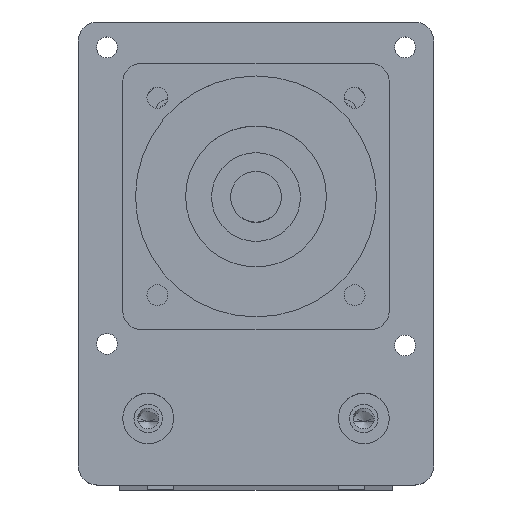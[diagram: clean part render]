
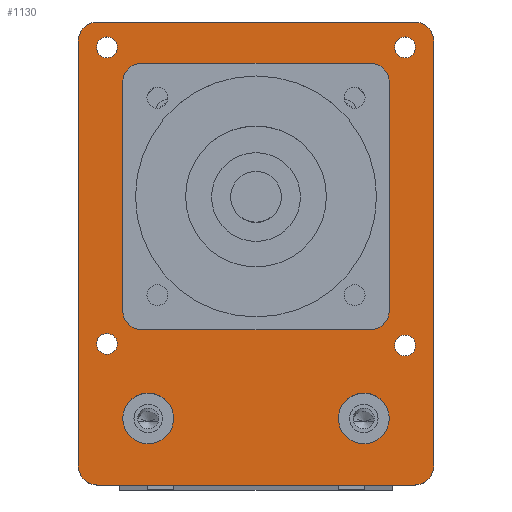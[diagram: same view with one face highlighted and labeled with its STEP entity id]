
A CAD part, top view. The second image highlights one B-rep face of the part: STEP entity #1130.
In plain terms, the highlighted planar face has unit normal (0, 0, 1).
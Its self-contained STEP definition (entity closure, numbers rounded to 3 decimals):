
#355=PLANE('',#8696);
#645=FACE_BOUND('',#2262,.T.);
#646=FACE_BOUND('',#2263,.T.);
#647=FACE_BOUND('',#2264,.T.);
#648=FACE_BOUND('',#2265,.T.);
#649=FACE_BOUND('',#2266,.T.);
#650=FACE_BOUND('',#2267,.T.);
#651=FACE_BOUND('',#2268,.T.);
#652=FACE_BOUND('',#2269,.T.);
#1130=ADVANCED_FACE('',(#645,#646,#647,#648,#649,#650,#651,#652),#355,.F.);
#2262=EDGE_LOOP('',(#4747));
#2263=EDGE_LOOP('',(#4748));
#2264=EDGE_LOOP('',(#4749,#4750,#4751,#4752,#4753,#4754,#4755,#4756));
#2265=EDGE_LOOP('',(#4757));
#2266=EDGE_LOOP('',(#4758));
#2267=EDGE_LOOP('',(#4759));
#2268=EDGE_LOOP('',(#4760));
#2269=EDGE_LOOP('',(#4761,#4762,#4763,#4764,#4765,#4766,#4767,#4768));
#2692=CIRCLE('',#8674,4.);
#2693=CIRCLE('',#8676,4.);
#2695=CIRCLE('',#8679,3.);
#2697=CIRCLE('',#8682,3.);
#2698=CIRCLE('',#8686,3.);
#2699=CIRCLE('',#8687,3.);
#2700=CIRCLE('',#8688,1.65);
#2701=CIRCLE('',#8689,1.65);
#2702=CIRCLE('',#8690,1.65);
#2703=CIRCLE('',#8691,1.65);
#2704=CIRCLE('',#8692,3.);
#2705=CIRCLE('',#8693,3.);
#2706=CIRCLE('',#8694,3.);
#2707=CIRCLE('',#8695,3.);
#4747=ORIENTED_EDGE('',*,*,#6620,.T.);
#4748=ORIENTED_EDGE('',*,*,#6619,.T.);
#4749=ORIENTED_EDGE('',*,*,#6629,.F.);
#4750=ORIENTED_EDGE('',*,*,#6633,.T.);
#4751=ORIENTED_EDGE('',*,*,#6634,.F.);
#4752=ORIENTED_EDGE('',*,*,#6635,.T.);
#4753=ORIENTED_EDGE('',*,*,#6630,.F.);
#4754=ORIENTED_EDGE('',*,*,#6623,.T.);
#4755=ORIENTED_EDGE('',*,*,#6617,.F.);
#4756=ORIENTED_EDGE('',*,*,#6626,.T.);
#4757=ORIENTED_EDGE('',*,*,#6636,.T.);
#4758=ORIENTED_EDGE('',*,*,#6637,.T.);
#4759=ORIENTED_EDGE('',*,*,#6638,.T.);
#4760=ORIENTED_EDGE('',*,*,#6639,.T.);
#4761=ORIENTED_EDGE('',*,*,#6640,.F.);
#4762=ORIENTED_EDGE('',*,*,#6641,.F.);
#4763=ORIENTED_EDGE('',*,*,#6642,.T.);
#4764=ORIENTED_EDGE('',*,*,#6643,.T.);
#4765=ORIENTED_EDGE('',*,*,#6644,.T.);
#4766=ORIENTED_EDGE('',*,*,#6645,.T.);
#4767=ORIENTED_EDGE('',*,*,#6646,.T.);
#4768=ORIENTED_EDGE('',*,*,#6647,.F.);
#5579=VERTEX_POINT('',#14184);
#5580=VERTEX_POINT('',#14186);
#5581=VERTEX_POINT('',#14190);
#5582=VERTEX_POINT('',#14193);
#5584=VERTEX_POINT('',#14197);
#5586=VERTEX_POINT('',#14204);
#5588=VERTEX_POINT('',#14210);
#5589=VERTEX_POINT('',#14214);
#5591=VERTEX_POINT('',#14220);
#5592=VERTEX_POINT('',#14222);
#5593=VERTEX_POINT('',#14225);
#5594=VERTEX_POINT('',#14227);
#5595=VERTEX_POINT('',#14229);
#5596=VERTEX_POINT('',#14231);
#5597=VERTEX_POINT('',#14233);
#5598=VERTEX_POINT('',#14234);
#5599=VERTEX_POINT('',#14236);
#5600=VERTEX_POINT('',#14238);
#5601=VERTEX_POINT('',#14240);
#5602=VERTEX_POINT('',#14242);
#5603=VERTEX_POINT('',#14244);
#5604=VERTEX_POINT('',#14246);
#6617=EDGE_CURVE('',#5579,#5580,#7287,.T.);
#6619=EDGE_CURVE('',#5581,#5581,#2692,.T.);
#6620=EDGE_CURVE('',#5582,#5582,#2693,.T.);
#6623=EDGE_CURVE('',#5584,#5580,#2695,.T.);
#6626=EDGE_CURVE('',#5579,#5586,#2697,.T.);
#6629=EDGE_CURVE('',#5588,#5586,#7293,.T.);
#6630=EDGE_CURVE('',#5584,#5589,#7294,.T.);
#6633=EDGE_CURVE('',#5588,#5591,#2698,.T.);
#6634=EDGE_CURVE('',#5592,#5591,#7297,.T.);
#6635=EDGE_CURVE('',#5592,#5589,#2699,.T.);
#6636=EDGE_CURVE('',#5593,#5593,#2700,.T.);
#6637=EDGE_CURVE('',#5594,#5594,#2701,.T.);
#6638=EDGE_CURVE('',#5595,#5595,#2702,.T.);
#6639=EDGE_CURVE('',#5596,#5596,#2703,.T.);
#6640=EDGE_CURVE('',#5597,#5598,#7298,.T.);
#6641=EDGE_CURVE('',#5599,#5597,#2704,.T.);
#6642=EDGE_CURVE('',#5599,#5600,#7299,.T.);
#6643=EDGE_CURVE('',#5600,#5601,#2705,.T.);
#6644=EDGE_CURVE('',#5601,#5602,#7300,.T.);
#6645=EDGE_CURVE('',#5602,#5603,#2706,.T.);
#6646=EDGE_CURVE('',#5603,#5604,#7301,.T.);
#6647=EDGE_CURVE('',#5598,#5604,#2707,.T.);
#7287=LINE('',#14185,#7901);
#7293=LINE('',#14211,#7907);
#7294=LINE('',#14213,#7908);
#7297=LINE('',#14221,#7911);
#7298=LINE('',#14232,#7912);
#7299=LINE('',#14237,#7913);
#7300=LINE('',#14241,#7914);
#7301=LINE('',#14245,#7915);
#7901=VECTOR('',#10840,1.);
#7907=VECTOR('',#10868,1.);
#7908=VECTOR('',#10871,1.);
#7911=VECTOR('',#10878,1.);
#7912=VECTOR('',#10889,1.);
#7913=VECTOR('',#10892,1.);
#7914=VECTOR('',#10895,1.);
#7915=VECTOR('',#10898,1.);
#8674=AXIS2_PLACEMENT_3D('',#14189,#10844,#10845);
#8676=AXIS2_PLACEMENT_3D('',#14192,#10848,#10849);
#8679=AXIS2_PLACEMENT_3D('',#14199,#10855,#10856);
#8682=AXIS2_PLACEMENT_3D('',#14205,#10862,#10863);
#8686=AXIS2_PLACEMENT_3D('',#14219,#10876,#10877);
#8687=AXIS2_PLACEMENT_3D('',#14223,#10879,#10880);
#8688=AXIS2_PLACEMENT_3D('',#14224,#10881,#10882);
#8689=AXIS2_PLACEMENT_3D('',#14226,#10883,#10884);
#8690=AXIS2_PLACEMENT_3D('',#14228,#10885,#10886);
#8691=AXIS2_PLACEMENT_3D('',#14230,#10887,#10888);
#8692=AXIS2_PLACEMENT_3D('',#14235,#10890,#10891);
#8693=AXIS2_PLACEMENT_3D('',#14239,#10893,#10894);
#8694=AXIS2_PLACEMENT_3D('',#14243,#10896,#10897);
#8695=AXIS2_PLACEMENT_3D('',#14247,#10899,#10900);
#8696=AXIS2_PLACEMENT_3D('',#14248,#10901,#10902);
#10840=DIRECTION('',(-1.,0.,0.));
#10844=DIRECTION('',(0.,0.,-1.));
#10845=DIRECTION('',(-1.,0.,0.));
#10848=DIRECTION('',(0.,0.,-1.));
#10849=DIRECTION('',(-1.,0.,0.));
#10855=DIRECTION('',(0.,0.,1.));
#10856=DIRECTION('',(-1.,0.,0.));
#10862=DIRECTION('',(0.,0.,1.));
#10863=DIRECTION('',(-1.,0.,0.));
#10868=DIRECTION('',(0.,-1.,0.));
#10871=DIRECTION('',(0.,1.,0.));
#10876=DIRECTION('',(0.,0.,1.));
#10877=DIRECTION('',(-1.,0.,0.));
#10878=DIRECTION('',(1.,0.,0.));
#10879=DIRECTION('',(0.,0.,1.));
#10880=DIRECTION('',(-1.,0.,0.));
#10881=DIRECTION('',(0.,0.,-1.));
#10882=DIRECTION('',(-1.,0.,0.));
#10883=DIRECTION('',(0.,0.,-1.));
#10884=DIRECTION('',(-1.,0.,0.));
#10885=DIRECTION('',(0.,0.,-1.));
#10886=DIRECTION('',(-1.,0.,0.));
#10887=DIRECTION('',(0.,0.,-1.));
#10888=DIRECTION('',(-1.,0.,0.));
#10889=DIRECTION('',(0.,1.,0.));
#10890=DIRECTION('',(0.,0.,1.));
#10891=DIRECTION('',(-1.,0.,0.));
#10892=DIRECTION('',(-1.,0.,0.));
#10893=DIRECTION('',(0.,0.,-1.));
#10894=DIRECTION('',(-1.,0.,0.));
#10895=DIRECTION('',(0.,1.,0.));
#10896=DIRECTION('',(0.,0.,-1.));
#10897=DIRECTION('',(-1.,0.,0.));
#10898=DIRECTION('',(1.,0.,0.));
#10899=DIRECTION('',(0.,0.,1.));
#10900=DIRECTION('',(-1.,0.,0.));
#10901=DIRECTION('',(0.,0.,-1.));
#10902=DIRECTION('',(1.,0.,0.));
#14184=CARTESIAN_POINT('',(28.683,-14.008,541.8));
#14185=CARTESIAN_POINT('',(-24.317,-14.008,541.8));
#14186=CARTESIAN_POINT('',(-21.317,-14.008,541.8));
#14189=CARTESIAN_POINT('',(-13.317,-3.508,541.8));
#14190=CARTESIAN_POINT('',(-17.317,-3.508,541.8));
#14192=CARTESIAN_POINT('',(20.683,-3.508,541.8));
#14193=CARTESIAN_POINT('',(16.683,-3.508,541.8));
#14197=CARTESIAN_POINT('',(-24.317,-11.008,541.8));
#14199=CARTESIAN_POINT('',(-21.317,-11.008,541.8));
#14204=CARTESIAN_POINT('',(31.683,-11.008,541.8));
#14205=CARTESIAN_POINT('',(28.683,-11.008,541.8));
#14210=CARTESIAN_POINT('',(31.683,55.992,541.8));
#14211=CARTESIAN_POINT('',(31.683,-14.008,541.8));
#14213=CARTESIAN_POINT('',(-24.317,-14.008,541.8));
#14214=CARTESIAN_POINT('',(-24.317,55.992,541.8));
#14219=CARTESIAN_POINT('',(28.683,55.992,541.8));
#14220=CARTESIAN_POINT('',(28.683,58.992,541.8));
#14221=CARTESIAN_POINT('',(-24.317,58.992,541.8));
#14222=CARTESIAN_POINT('',(-21.317,58.992,541.8));
#14223=CARTESIAN_POINT('',(-21.317,55.992,541.8));
#14224=CARTESIAN_POINT('',(-19.817,8.242,541.8));
#14225=CARTESIAN_POINT('',(-21.467,8.242,541.8));
#14226=CARTESIAN_POINT('',(27.183,7.992,541.8));
#14227=CARTESIAN_POINT('',(25.533,7.992,541.8));
#14228=CARTESIAN_POINT('',(27.183,54.992,541.8));
#14229=CARTESIAN_POINT('',(25.533,54.992,541.8));
#14230=CARTESIAN_POINT('',(-19.817,54.992,541.8));
#14231=CARTESIAN_POINT('',(-21.467,54.992,541.8));
#14232=CARTESIAN_POINT('',(24.683,23.192,541.8));
#14233=CARTESIAN_POINT('',(24.683,13.492,541.8));
#14234=CARTESIAN_POINT('',(24.683,49.492,541.8));
#14235=CARTESIAN_POINT('',(21.683,13.492,541.8));
#14236=CARTESIAN_POINT('',(21.683,10.492,541.8));
#14237=CARTESIAN_POINT('',(-17.317,10.492,541.8));
#14238=CARTESIAN_POINT('',(-14.317,10.492,541.8));
#14239=CARTESIAN_POINT('',(-14.317,13.492,541.8));
#14240=CARTESIAN_POINT('',(-17.317,13.492,541.8));
#14241=CARTESIAN_POINT('',(-17.317,52.492,541.8));
#14242=CARTESIAN_POINT('',(-17.317,49.492,541.8));
#14243=CARTESIAN_POINT('',(-14.317,49.492,541.8));
#14244=CARTESIAN_POINT('',(-14.317,52.492,541.8));
#14245=CARTESIAN_POINT('',(-17.317,52.492,541.8));
#14246=CARTESIAN_POINT('',(21.683,52.492,541.8));
#14247=CARTESIAN_POINT('',(21.683,49.492,541.8));
#14248=CARTESIAN_POINT('',(3.683,20.992,541.8));
